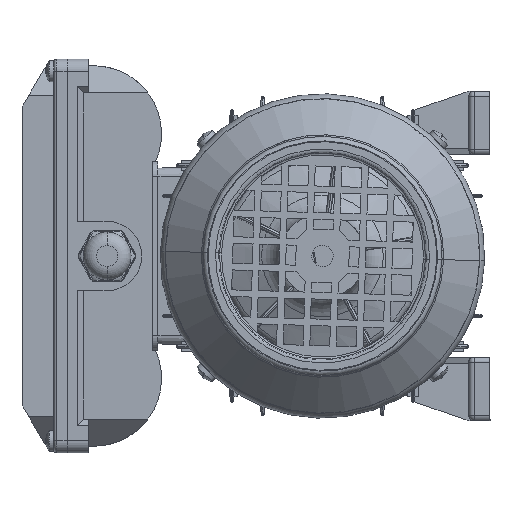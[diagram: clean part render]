
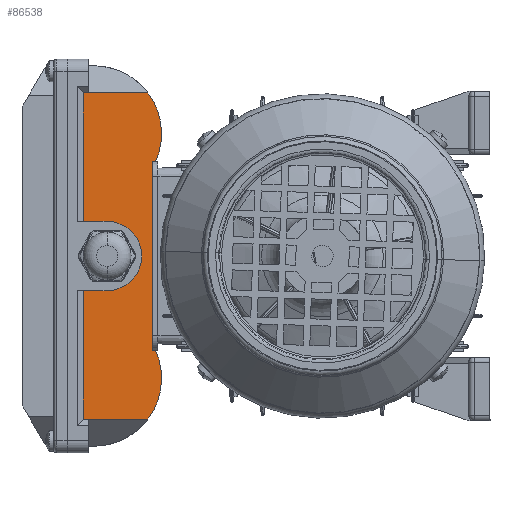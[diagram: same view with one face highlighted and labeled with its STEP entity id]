
A CAD part, left-side view. The second image highlights one B-rep face of the part: STEP entity #86538.
In plain terms, the highlighted planar face has unit normal (-1, 0, 0) as drawn and (0, 0, -1) by its records, which use the part's own axes.
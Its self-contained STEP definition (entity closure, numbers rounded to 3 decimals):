
#3576 = LINE ( 'NONE', #87762, #36507 ) ;
#3846 = CARTESIAN_POINT ( 'NONE',  ( 0.147, 12.818, 2.5 ) ) ;
#5722 = CARTESIAN_POINT ( 'NONE',  ( 74.475, 12.818, 2.5 ) ) ;
#6298 = VECTOR ( 'NONE', #82663, 1000. ) ;
#6936 = CARTESIAN_POINT ( 'NONE',  ( -60.853, 12.818, 2.5 ) ) ;
#7456 = EDGE_CURVE ( 'NONE', #13798, #53913, #71646, .T. ) ;
#7939 = VERTEX_POINT ( 'NONE', #43112 ) ;
#13658 = LINE ( 'NONE', #61242, #39105 ) ;
#13798 = VERTEX_POINT ( 'NONE', #76864 ) ;
#14021 = CARTESIAN_POINT ( 'NONE',  ( -48.182, -11.501, 2.5 ) ) ;
#14856 = ORIENTED_EDGE ( 'NONE', *, *, #71599, .F. ) ;
#15248 = EDGE_CURVE ( 'NONE', #7939, #92272, #58526, .T. ) ;
#15312 = DIRECTION ( 'NONE',  ( 0., 1., 0. ) ) ;
#16474 = DIRECTION ( 'NONE',  ( 1., 0., 0. ) ) ;
#16537 = AXIS2_PLACEMENT_3D ( 'NONE', #40890, #88741, #97148 ) ;
#16753 = EDGE_CURVE ( 'NONE', #111283, #84977, #79110, .T. ) ;
#18204 = ORIENTED_EDGE ( 'NONE', *, *, #39557, .F. ) ;
#18892 = ORIENTED_EDGE ( 'NONE', *, *, #51158, .F. ) ;
#20250 = DIRECTION ( 'NONE',  ( 0., -1., 0. ) ) ;
#20890 = VECTOR ( 'NONE', #20250, 1000. ) ;
#20971 = DIRECTION ( 'NONE',  ( 0., 1., 0. ) ) ;
#22482 = LINE ( 'NONE', #117050, #77538 ) ;
#22915 = EDGE_CURVE ( 'NONE', #111283, #37752, #56538, .T. ) ;
#23233 = CIRCLE ( 'NONE', #25663, 25.5 ) ;
#25663 = AXIS2_PLACEMENT_3D ( 'NONE', #27421, #113283, #56075 ) ;
#27421 = CARTESIAN_POINT ( 'NONE',  ( -32.853, 8.878, 2.5 ) ) ;
#30902 = VERTEX_POINT ( 'NONE', #93625 ) ;
#30985 = DIRECTION ( 'NONE',  ( 0., 1., 0. ) ) ;
#31771 = EDGE_CURVE ( 'NONE', #84977, #83891, #113318, .T. ) ;
#32037 = AXIS2_PLACEMENT_3D ( 'NONE', #35296, #122096, #16474 ) ;
#33353 = CARTESIAN_POINT ( 'NONE',  ( 74.475, 10.878, 2.5 ) ) ;
#34043 = LINE ( 'NONE', #49676, #110120 ) ;
#34396 = CARTESIAN_POINT ( 'NONE',  ( -60.853, 12.818, 2.5 ) ) ;
#35296 = CARTESIAN_POINT ( 'NONE',  ( -60.853, 12.818, 2.5 ) ) ;
#36507 = VECTOR ( 'NONE', #77695, 1000. ) ;
#37130 = VERTEX_POINT ( 'NONE', #14021 ) ;
#37752 = VERTEX_POINT ( 'NONE', #80519 ) ;
#39105 = VECTOR ( 'NONE', #99718, 1000. ) ;
#39557 = EDGE_CURVE ( 'NONE', #53913, #30902, #118458, .T. ) ;
#39640 = VECTOR ( 'NONE', #102103, 1000. ) ;
#40183 = CARTESIAN_POINT ( 'NONE',  ( -22.353, -13.122, 2.5 ) ) ;
#40733 = EDGE_CURVE ( 'NONE', #49842, #120406, #13658, .T. ) ;
#40812 = ORIENTED_EDGE ( 'NONE', *, *, #22915, .F. ) ;
#40890 = CARTESIAN_POINT ( 'NONE',  ( 59.147, 8.878, 2.5 ) ) ;
#42272 = CARTESIAN_POINT ( 'NONE',  ( -48.182, 10.878, 2.5 ) ) ;
#42390 = EDGE_CURVE ( 'NONE', #7939, #61792, #116408, .T. ) ;
#42604 = ORIENTED_EDGE ( 'NONE', *, *, #15248, .T. ) ;
#43112 = CARTESIAN_POINT ( 'NONE',  ( -48.182, 12.818, 2.5 ) ) ;
#43284 = ORIENTED_EDGE ( 'NONE', *, *, #7456, .F. ) ;
#44607 = CARTESIAN_POINT ( 'NONE',  ( 13.147, -13.122, 2.5 ) ) ;
#47780 = DIRECTION ( 'NONE',  ( 0., 0., -1. ) ) ;
#49182 = DIRECTION ( 'NONE',  ( 0., 1., 0. ) ) ;
#49676 = CARTESIAN_POINT ( 'NONE',  ( 48.647, -13.122, 2.5 ) ) ;
#49842 = VERTEX_POINT ( 'NONE', #83907 ) ;
#51158 = EDGE_CURVE ( 'NONE', #37752, #92272, #22482, .T. ) ;
#52505 = FACE_OUTER_BOUND ( 'NONE', #110676, .T. ) ;
#53913 = VERTEX_POINT ( 'NONE', #69386 ) ;
#56075 = DIRECTION ( 'NONE',  ( 1., 0., 0. ) ) ;
#56538 = CIRCLE ( 'NONE', #117812, 13. ) ;
#57584 = ORIENTED_EDGE ( 'NONE', *, *, #113677, .T. ) ;
#58526 = LINE ( 'NONE', #34396, #6298 ) ;
#61242 = CARTESIAN_POINT ( 'NONE',  ( -22.353, -13.122, 2.5 ) ) ;
#61792 = VERTEX_POINT ( 'NONE', #42272 ) ;
#64343 = EDGE_CURVE ( 'NONE', #37130, #49842, #23233, .T. ) ;
#64400 = DIRECTION ( 'NONE',  ( 1., 0., 0. ) ) ;
#67265 = ORIENTED_EDGE ( 'NONE', *, *, #40733, .F. ) ;
#68081 = ORIENTED_EDGE ( 'NONE', *, *, #103107, .F. ) ;
#68138 = DIRECTION ( 'NONE',  ( 0., 1., 0. ) ) ;
#69386 = CARTESIAN_POINT ( 'NONE',  ( 74.475, -11.501, 2.5 ) ) ;
#70531 = VECTOR ( 'NONE', #49182, 1000. ) ;
#71599 = EDGE_CURVE ( 'NONE', #30902, #83891, #99480, .T. ) ;
#71646 = CIRCLE ( 'NONE', #16537, 25.5 ) ;
#74347 = PLANE ( 'NONE',  #32037 ) ;
#76152 = VECTOR ( 'NONE', #20971, 1000. ) ;
#76443 = CARTESIAN_POINT ( 'NONE',  ( -48.182, 16.878, 2.5 ) ) ;
#76864 = CARTESIAN_POINT ( 'NONE',  ( 48.647, -14.36, 2.5 ) ) ;
#77538 = VECTOR ( 'NONE', #68138, 1000. ) ;
#77695 = DIRECTION ( 'NONE',  ( 0., -1., 0. ) ) ;
#78057 = ORIENTED_EDGE ( 'NONE', *, *, #79667, .T. ) ;
#79110 = LINE ( 'NONE', #107669, #76152 ) ;
#79667 = EDGE_CURVE ( 'NONE', #110697, #120406, #111162, .T. ) ;
#80519 = CARTESIAN_POINT ( 'NONE',  ( 0.147, 3.878, 2.5 ) ) ;
#82663 = DIRECTION ( 'NONE',  ( 1., 0., 0. ) ) ;
#82823 = ORIENTED_EDGE ( 'NONE', *, *, #31771, .T. ) ;
#83891 = VERTEX_POINT ( 'NONE', #5722 ) ;
#83907 = CARTESIAN_POINT ( 'NONE',  ( -22.353, -14.36, 2.5 ) ) ;
#84901 = VECTOR ( 'NONE', #64400, 1000. ) ;
#84977 = VERTEX_POINT ( 'NONE', #93043 ) ;
#86538 = ADVANCED_FACE ( 'NONE', ( #52505 ), #74347, .F. ) ;
#87762 = CARTESIAN_POINT ( 'NONE',  ( -48.182, 16.878, 2.5 ) ) ;
#88741 = DIRECTION ( 'NONE',  ( 0., 0., 1. ) ) ;
#92272 = VERTEX_POINT ( 'NONE', #3846 ) ;
#93043 = CARTESIAN_POINT ( 'NONE',  ( 26.147, 12.818, 2.5 ) ) ;
#93625 = CARTESIAN_POINT ( 'NONE',  ( 74.475, 10.878, 2.5 ) ) ;
#94799 = ORIENTED_EDGE ( 'NONE', *, *, #16753, .T. ) ;
#94921 = CARTESIAN_POINT ( 'NONE',  ( 48.647, -13.122, 2.5 ) ) ;
#95511 = CARTESIAN_POINT ( 'NONE',  ( 74.475, 16.878, 2.5 ) ) ;
#97148 = DIRECTION ( 'NONE',  ( 1., 0., 0. ) ) ;
#99480 = LINE ( 'NONE', #33353, #118819 ) ;
#99718 = DIRECTION ( 'NONE',  ( 0., 1., 0. ) ) ;
#102103 = DIRECTION ( 'NONE',  ( -1., 0., 0. ) ) ;
#102519 = CARTESIAN_POINT ( 'NONE',  ( 26.147, 3.878, 2.5 ) ) ;
#103107 = EDGE_CURVE ( 'NONE', #61792, #37130, #3576, .T. ) ;
#104501 = CARTESIAN_POINT ( 'NONE',  ( 13.147, 3.878, 2.5 ) ) ;
#107669 = CARTESIAN_POINT ( 'NONE',  ( 26.147, 12.818, 2.5 ) ) ;
#110120 = VECTOR ( 'NONE', #30985, 1000. ) ;
#110676 = EDGE_LOOP ( 'NONE', ( #40812, #94799, #82823, #14856, #18204, #43284, #57584, #78057, #67265, #117416, #68081, #116948, #42604, #18892 ) ) ;
#110697 = VERTEX_POINT ( 'NONE', #94921 ) ;
#111162 = LINE ( 'NONE', #44607, #39640 ) ;
#111283 = VERTEX_POINT ( 'NONE', #102519 ) ;
#113283 = DIRECTION ( 'NONE',  ( 0., 0., 1. ) ) ;
#113318 = LINE ( 'NONE', #6936, #84901 ) ;
#113677 = EDGE_CURVE ( 'NONE', #13798, #110697, #34043, .T. ) ;
#116408 = LINE ( 'NONE', #76443, #20890 ) ;
#116948 = ORIENTED_EDGE ( 'NONE', *, *, #42390, .F. ) ;
#117050 = CARTESIAN_POINT ( 'NONE',  ( 0.147, 16.878, 2.5 ) ) ;
#117416 = ORIENTED_EDGE ( 'NONE', *, *, #64343, .F. ) ;
#117812 = AXIS2_PLACEMENT_3D ( 'NONE', #104501, #47780, #122155 ) ;
#118458 = LINE ( 'NONE', #95511, #70531 ) ;
#118819 = VECTOR ( 'NONE', #15312, 1000. ) ;
#120406 = VERTEX_POINT ( 'NONE', #40183 ) ;
#122096 = DIRECTION ( 'NONE',  ( 0., 0., 1. ) ) ;
#122155 = DIRECTION ( 'NONE',  ( 1., 0., 0. ) ) ;
